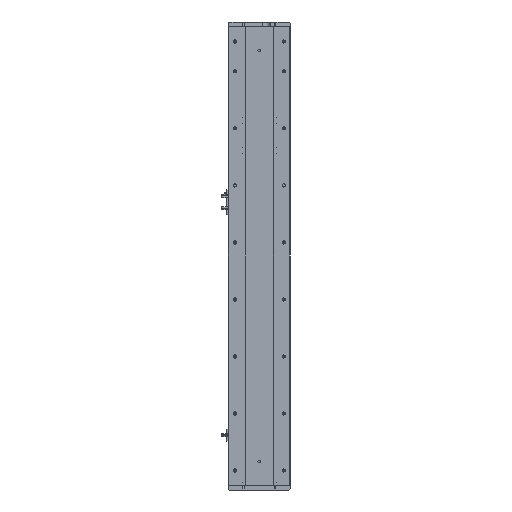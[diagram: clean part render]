
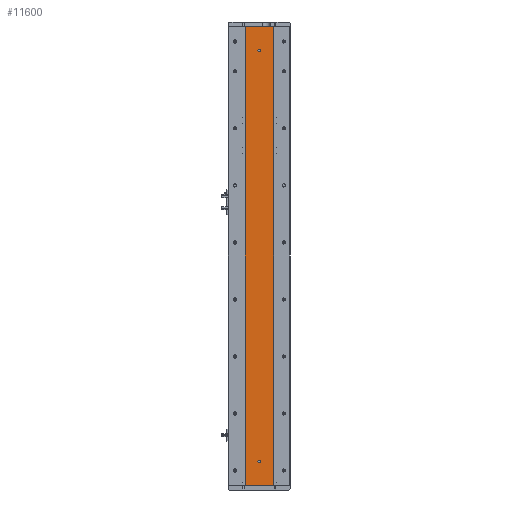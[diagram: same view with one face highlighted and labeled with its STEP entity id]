
A CAD part, left-side view. The second image highlights one B-rep face of the part: STEP entity #11600.
In plain terms, the highlighted planar face has unit normal (-1, 0, 0).
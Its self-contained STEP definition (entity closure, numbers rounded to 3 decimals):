
#2084 = ORIENTED_EDGE ( 'NONE', *, *, #32794, .F. ) ;
#3562 = ORIENTED_EDGE ( 'NONE', *, *, #28060, .F. ) ;
#3749 = CARTESIAN_POINT ( 'NONE',  ( -24.994, 29.785, 965. ) ) ;
#3854 = VERTEX_POINT ( 'NONE', #14004 ) ;
#4120 = EDGE_CURVE ( 'NONE', #24712, #4932, #32248, .T. ) ;
#4319 = CIRCLE ( 'NONE', #5156, 3. ) ;
#4545 = ORIENTED_EDGE ( 'NONE', *, *, #4120, .F. ) ;
#4690 = EDGE_CURVE ( 'NONE', #12583, #34863, #17386, .T. ) ;
#4932 = VERTEX_POINT ( 'NONE', #16262 ) ;
#5156 = AXIS2_PLACEMENT_3D ( 'NONE', #30244, #13595, #33060 ) ;
#5489 = LINE ( 'NONE', #3749, #26736 ) ;
#5897 = CARTESIAN_POINT ( 'NONE',  ( -24.994, 0., 915. ) ) ;
#6229 = CARTESIAN_POINT ( 'NONE',  ( -24.994, -29.785, 965. ) ) ;
#6667 = LINE ( 'NONE', #21122, #20558 ) ;
#7620 = LINE ( 'NONE', #26378, #15012 ) ;
#8048 = CARTESIAN_POINT ( 'NONE',  ( -24.994, 29.785, 965. ) ) ;
#8641 = DIRECTION ( 'NONE',  ( 0., 0., 1. ) ) ;
#9552 = EDGE_LOOP ( 'NONE', ( #20112, #16061, #3562, #17141 ) ) ;
#9606 = CIRCLE ( 'NONE', #18168, 3. ) ;
#9675 = DIRECTION ( 'NONE',  ( -1., 0., 0. ) ) ;
#9829 = CARTESIAN_POINT ( 'NONE',  ( -24.994, 0., 53. ) ) ;
#9947 = ORIENTED_EDGE ( 'NONE', *, *, #11960, .F. ) ;
#10091 = DIRECTION ( 'NONE',  ( 0., 0., -1. ) ) ;
#10206 = CARTESIAN_POINT ( 'NONE',  ( -24.994, 0., 50. ) ) ;
#11387 = CARTESIAN_POINT ( 'NONE',  ( -24.994, 29.785, 965. ) ) ;
#11600 = ADVANCED_FACE ( 'NONE', ( #14213, #28120, #35512 ), #32912, .F. ) ;
#11710 = AXIS2_PLACEMENT_3D ( 'NONE', #11387, #30818, #14172 ) ;
#11960 = EDGE_CURVE ( 'NONE', #3854, #35081, #28491, .T. ) ;
#12198 = AXIS2_PLACEMENT_3D ( 'NONE', #26320, #9675, #29108 ) ;
#12538 = DIRECTION ( 'NONE',  ( 0., -1., 0. ) ) ;
#12583 = VERTEX_POINT ( 'NONE', #29423 ) ;
#13003 = DIRECTION ( 'NONE',  ( 0., 0., 1. ) ) ;
#13435 = EDGE_CURVE ( 'NONE', #35081, #3854, #9606, .T. ) ;
#13595 = DIRECTION ( 'NONE',  ( -1., 0., 0. ) ) ;
#14004 = CARTESIAN_POINT ( 'NONE',  ( -24.994, 0., 918. ) ) ;
#14172 = DIRECTION ( 'NONE',  ( 0., 0., -1. ) ) ;
#14213 = FACE_BOUND ( 'NONE', #21713, .T. ) ;
#15012 = VECTOR ( 'NONE', #12538, 1000. ) ;
#16061 = ORIENTED_EDGE ( 'NONE', *, *, #34139, .F. ) ;
#16262 = CARTESIAN_POINT ( 'NONE',  ( -24.994, 0., 47. ) ) ;
#16529 = VECTOR ( 'NONE', #34378, 1000. ) ;
#17141 = ORIENTED_EDGE ( 'NONE', *, *, #27970, .T. ) ;
#17163 = AXIS2_PLACEMENT_3D ( 'NONE', #10206, #29647, #13003 ) ;
#17386 = LINE ( 'NONE', #28650, #16529 ) ;
#18168 = AXIS2_PLACEMENT_3D ( 'NONE', #5897, #25284, #8641 ) ;
#19979 = CARTESIAN_POINT ( 'NONE',  ( -24.994, 0., 912. ) ) ;
#20112 = ORIENTED_EDGE ( 'NONE', *, *, #4690, .T. ) ;
#20247 = EDGE_LOOP ( 'NONE', ( #4545, #2084 ) ) ;
#20558 = VECTOR ( 'NONE', #10091, 1000. ) ;
#21122 = CARTESIAN_POINT ( 'NONE',  ( -24.994, -29.785, 965. ) ) ;
#21174 = VERTEX_POINT ( 'NONE', #8048 ) ;
#21344 = VERTEX_POINT ( 'NONE', #6229 ) ;
#21713 = EDGE_LOOP ( 'NONE', ( #9947, #33700 ) ) ;
#24712 = VERTEX_POINT ( 'NONE', #9829 ) ;
#25284 = DIRECTION ( 'NONE',  ( -1., 0., 0. ) ) ;
#26320 = CARTESIAN_POINT ( 'NONE',  ( -24.994, 0., 915. ) ) ;
#26378 = CARTESIAN_POINT ( 'NONE',  ( -24.994, 29.785, 965. ) ) ;
#26736 = VECTOR ( 'NONE', #28687, 1000. ) ;
#27970 = EDGE_CURVE ( 'NONE', #21174, #12583, #5489, .T. ) ;
#28060 = EDGE_CURVE ( 'NONE', #21174, #21344, #7620, .T. ) ;
#28120 = FACE_BOUND ( 'NONE', #20247, .T. ) ;
#28491 = CIRCLE ( 'NONE', #12198, 3. ) ;
#28650 = CARTESIAN_POINT ( 'NONE',  ( -24.994, 29.785, 0. ) ) ;
#28687 = DIRECTION ( 'NONE',  ( 0., 0., -1. ) ) ;
#29108 = DIRECTION ( 'NONE',  ( 0., 0., 1. ) ) ;
#29423 = CARTESIAN_POINT ( 'NONE',  ( -24.994, 29.785, 0. ) ) ;
#29647 = DIRECTION ( 'NONE',  ( -1., 0., 0. ) ) ;
#30244 = CARTESIAN_POINT ( 'NONE',  ( -24.994, 0., 50. ) ) ;
#30818 = DIRECTION ( 'NONE',  ( 1., 0., 0. ) ) ;
#32248 = CIRCLE ( 'NONE', #17163, 3. ) ;
#32794 = EDGE_CURVE ( 'NONE', #4932, #24712, #4319, .T. ) ;
#32912 = PLANE ( 'NONE',  #11710 ) ;
#33060 = DIRECTION ( 'NONE',  ( 0., 0., 1. ) ) ;
#33700 = ORIENTED_EDGE ( 'NONE', *, *, #13435, .F. ) ;
#34139 = EDGE_CURVE ( 'NONE', #21344, #34863, #6667, .T. ) ;
#34378 = DIRECTION ( 'NONE',  ( 0., -1., 0. ) ) ;
#34863 = VERTEX_POINT ( 'NONE', #35663 ) ;
#35081 = VERTEX_POINT ( 'NONE', #19979 ) ;
#35512 = FACE_OUTER_BOUND ( 'NONE', #9552, .T. ) ;
#35663 = CARTESIAN_POINT ( 'NONE',  ( -24.994, -29.785, 0. ) ) ;
